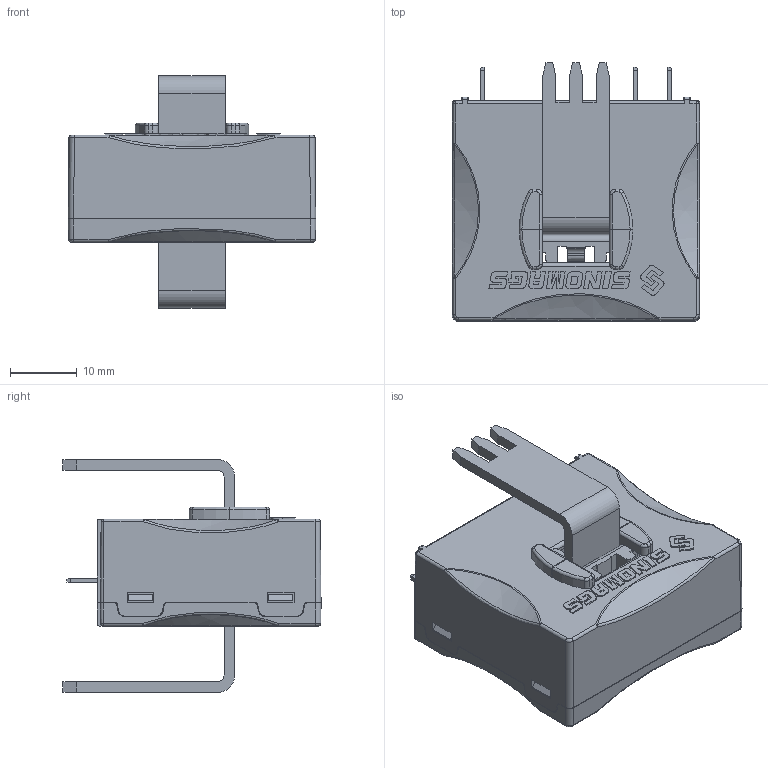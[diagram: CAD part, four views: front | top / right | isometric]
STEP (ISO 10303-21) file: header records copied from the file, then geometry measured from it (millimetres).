
FILE_DESCRIPTION(/* description */ (''),/* implementation_level */ '2;1');
FILE_NAME(/* name */ 'STB-LA out 20211012.stp',/* time_stamp */ '2021-10-12T13:50:40+08:00',/* author */ (''),/* organization */ (''),/* preprocessor_version */ 'ST-DEVELOPER v15',/* originating_system */ 'SIEMENS PLM Software NX 8.5',/* authorisation */ '');
FILE_SCHEMA (('AUTOMOTIVE_DESIGN { 1 0 10303 214 3 1 1 1 }'));
Length unit declared in the file: millimetre
Products named in the file (1): LeiX0CA44225mzc1
Bounding box: 37.04 x 38.6 x 34.8 mm (x, y, z)
Volume: 19441.9 mm3; surface area: 8301.3 mm2
Topology: 1 solids, 1 shells, 740 faces, 2079 edges, 1310 vertices
Faces by surface type: plane 461, cylinder 176, bspline 69, sphere 16, torus 16, cone 2
Full cylindrical faces by diameter (mm): 0.85 x2, 0.9 x2
Entity records: 26077 total; most frequent: CARTESIAN_POINT 6738, ORIENTED_EDGE 4104, DIRECTION 3684, EDGE_CURVE 2052, LINE 1504, VECTOR 1504, VERTEX_POINT 1308, AXIS2_PLACEMENT_3D 1090
